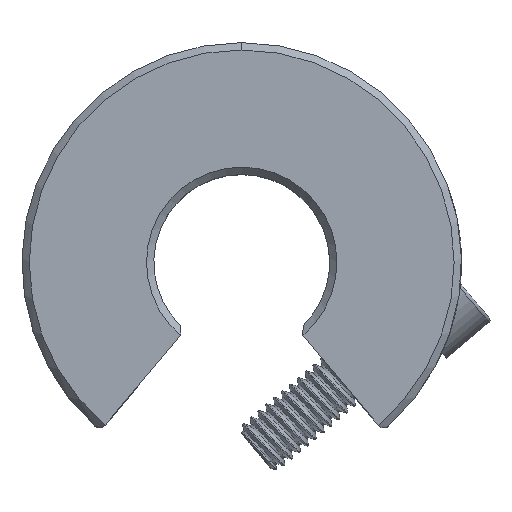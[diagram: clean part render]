
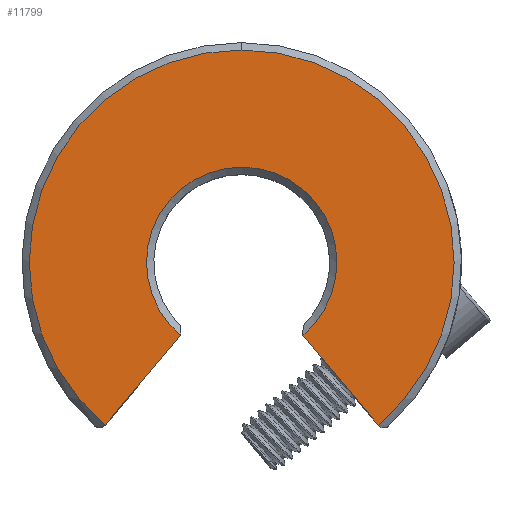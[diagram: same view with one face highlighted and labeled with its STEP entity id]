
A CAD part, top view. The second image highlights one B-rep face of the part: STEP entity #11799.
In plain terms, the highlighted planar face has unit normal (0, 0, 1) as drawn and (0, 1, 0) by its records, which use the part's own axes.
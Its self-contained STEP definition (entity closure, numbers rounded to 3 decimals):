
#62 = ORIENTED_EDGE ( 'NONE', *, *, #6322, .T. ) ;
#412 = CIRCLE ( 'NONE', #5094, 6.5 ) ;
#468 = CIRCLE ( 'NONE', #14447, 0.5 ) ;
#1195 = CIRCLE ( 'NONE', #10751, 14.5 ) ;
#1619 = EDGE_LOOP ( 'NONE', ( #10871, #4918, #62, #7239, #6938, #12446, #8147 ) ) ;
#1914 = CARTESIAN_POINT ( 'NONE',  ( 3.857, 10., 4.596 ) ) ;
#1936 = DIRECTION ( 'NONE',  ( 0., 1., 0. ) ) ;
#2045 = CARTESIAN_POINT ( 'NONE',  ( -9.32, 10., 11.108 ) ) ;
#2165 = DIRECTION ( 'NONE',  ( 0., 0., 1. ) ) ;
#2392 = PLANE ( 'NONE',  #13229 ) ;
#2672 = CARTESIAN_POINT ( 'NONE',  ( -3.857, 10., 4.596 ) ) ;
#3102 = DIRECTION ( 'NONE',  ( 0., 1., 0. ) ) ;
#3248 = DIRECTION ( 'NONE',  ( 0., 0., 1. ) ) ;
#3321 = DIRECTION ( 'NONE',  ( 0., 1., 0. ) ) ;
#3363 = CARTESIAN_POINT ( 'NONE',  ( 9.32, 10., 11.108 ) ) ;
#4256 = CARTESIAN_POINT ( 'NONE',  ( -9.698, 10., 10.78 ) ) ;
#4486 = DIRECTION ( 'NONE',  ( 0., 1., 0. ) ) ;
#4640 = CIRCLE ( 'NONE', #15171, 0.5 ) ;
#4862 = VERTEX_POINT ( 'NONE', #2045 ) ;
#4918 = ORIENTED_EDGE ( 'NONE', *, *, #5558, .T. ) ;
#5094 = AXIS2_PLACEMENT_3D ( 'NONE', #13176, #7131, #14184 ) ;
#5531 = DIRECTION ( 'NONE',  ( 0.643, 0., 0.766 ) ) ;
#5558 = EDGE_CURVE ( 'NONE', #11350, #8251, #4640, .T. ) ;
#5785 = CARTESIAN_POINT ( 'NONE',  ( 9.698, 10., 10.78 ) ) ;
#5931 = FACE_OUTER_BOUND ( 'NONE', #1619, .T. ) ;
#6205 = DIRECTION ( 'NONE',  ( 0.643, 0., -0.766 ) ) ;
#6322 = EDGE_CURVE ( 'NONE', #8251, #11419, #1195, .T. ) ;
#6628 = DIRECTION ( 'NONE',  ( 0., 0., 1. ) ) ;
#6844 = VERTEX_POINT ( 'NONE', #12235 ) ;
#6938 = ORIENTED_EDGE ( 'NONE', *, *, #10629, .T. ) ;
#7074 = DIRECTION ( 'NONE',  ( 0., 0., 1. ) ) ;
#7131 = DIRECTION ( 'NONE',  ( 0., -1., 0. ) ) ;
#7239 = ORIENTED_EDGE ( 'NONE', *, *, #9325, .T. ) ;
#7592 = VERTEX_POINT ( 'NONE', #7856 ) ;
#7600 = CIRCLE ( 'NONE', #13218, 14.5 ) ;
#7745 = EDGE_CURVE ( 'NONE', #6844, #11350, #14649, .T. ) ;
#7856 = CARTESIAN_POINT ( 'NONE',  ( -4.178, 10., 4.979 ) ) ;
#7998 = CARTESIAN_POINT ( 'NONE',  ( 0., 10., 0. ) ) ;
#8147 = ORIENTED_EDGE ( 'NONE', *, *, #12725, .T. ) ;
#8251 = VERTEX_POINT ( 'NONE', #3363 ) ;
#8302 = CARTESIAN_POINT ( 'NONE',  ( -9.315, 10., 11.101 ) ) ;
#8479 = CARTESIAN_POINT ( 'NONE',  ( 9.315, 10., 11.101 ) ) ;
#9231 = DIRECTION ( 'NONE',  ( 0., 1., 0. ) ) ;
#9325 = EDGE_CURVE ( 'NONE', #11419, #4862, #7600, .T. ) ;
#9452 = CARTESIAN_POINT ( 'NONE',  ( 0., 10., 0. ) ) ;
#10008 = EDGE_CURVE ( 'NONE', #12035, #7592, #11948, .T. ) ;
#10047 = VECTOR ( 'NONE', #5531, 1000. ) ;
#10237 = CARTESIAN_POINT ( 'NONE',  ( 0., 10., -14.5 ) ) ;
#10449 = DIRECTION ( 'NONE',  ( 0., 0., 1. ) ) ;
#10629 = EDGE_CURVE ( 'NONE', #4862, #12035, #468, .T. ) ;
#10751 = AXIS2_PLACEMENT_3D ( 'NONE', #9452, #9231, #2165 ) ;
#10871 = ORIENTED_EDGE ( 'NONE', *, *, #7745, .T. ) ;
#11350 = VERTEX_POINT ( 'NONE', #8479 ) ;
#11419 = VERTEX_POINT ( 'NONE', #10237 ) ;
#11799 = ADVANCED_FACE ( 'NONE', ( #5931 ), #2392, .T. ) ;
#11948 = LINE ( 'NONE', #2672, #11998 ) ;
#11998 = VECTOR ( 'NONE', #6205, 1000. ) ;
#12035 = VERTEX_POINT ( 'NONE', #8302 ) ;
#12235 = CARTESIAN_POINT ( 'NONE',  ( 4.178, 10., 4.979 ) ) ;
#12446 = ORIENTED_EDGE ( 'NONE', *, *, #10008, .T. ) ;
#12725 = EDGE_CURVE ( 'NONE', #7592, #6844, #412, .T. ) ;
#13176 = CARTESIAN_POINT ( 'NONE',  ( 0., 10., 0. ) ) ;
#13218 = AXIS2_PLACEMENT_3D ( 'NONE', #7998, #1936, #6628 ) ;
#13229 = AXIS2_PLACEMENT_3D ( 'NONE', #14997, #4486, #7074 ) ;
#14184 = DIRECTION ( 'NONE',  ( 0., 0., 1. ) ) ;
#14447 = AXIS2_PLACEMENT_3D ( 'NONE', #4256, #3102, #3248 ) ;
#14649 = LINE ( 'NONE', #1914, #10047 ) ;
#14997 = CARTESIAN_POINT ( 'NONE',  ( 0., 10., 0. ) ) ;
#15171 = AXIS2_PLACEMENT_3D ( 'NONE', #5785, #3321, #10449 ) ;
